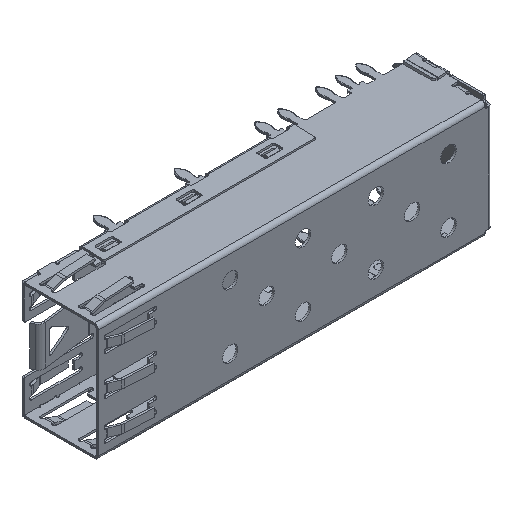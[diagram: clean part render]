
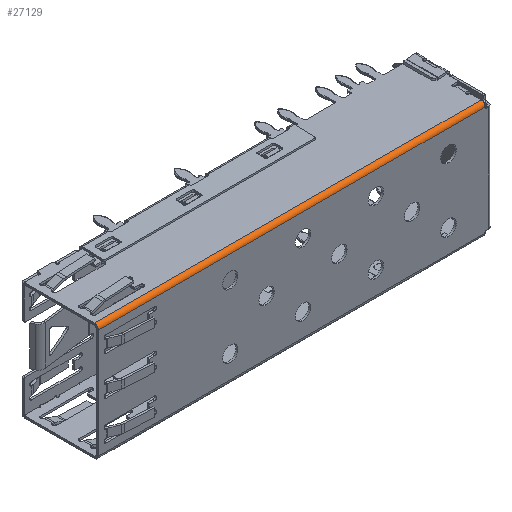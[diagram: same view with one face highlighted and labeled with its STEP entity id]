
A CAD part, isometric view. The second image highlights one B-rep face of the part: STEP entity #27129.
In plain terms, the highlighted cylindrical face has radius 0.5 mm (diameter 1 mm), a partial arc.
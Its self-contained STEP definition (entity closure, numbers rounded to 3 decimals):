
#5833 = LINE ( 'NONE', #8128, #5842 ) ;
#5842 = VECTOR ( 'NONE', #8131, 1000. ) ;
#8128 = CARTESIAN_POINT ( 'NONE',  ( -38.981, -4.934, 7.75 ) ) ;
#8131 = DIRECTION ( 'NONE',  ( -1., 0., 0. ) ) ;
#8472 = CIRCLE ( 'NONE', #53793, 0.5 ) ;
#8480 = CIRCLE ( 'NONE', #53795, 0.5 ) ;
#10544 = CARTESIAN_POINT ( 'NONE',  ( -39.131, -4.434, 7.75 ) ) ;
#10546 = DIRECTION ( 'NONE',  ( 1., 0., 0. ) ) ;
#10547 = DIRECTION ( 'NONE',  ( 0., 0., 1. ) ) ;
#10560 = CARTESIAN_POINT ( 'NONE',  ( 8.689, -4.434, 7.75 ) ) ;
#10561 = DIRECTION ( 'NONE',  ( -1., 0., 0. ) ) ;
#10563 = DIRECTION ( 'NONE',  ( 0., 0., 1. ) ) ;
#13764 = AXIS2_PLACEMENT_3D ( 'NONE', #30842, #30830, #30850 ) ;
#14603 = VERTEX_POINT ( 'NONE', #16296 ) ;
#14604 = VERTEX_POINT ( 'NONE', #16298 ) ;
#15592 = EDGE_LOOP ( 'NONE', ( #20827, #20825, #20852, #20833 ) ) ;
#16296 = CARTESIAN_POINT ( 'NONE',  ( 8.689, -4.434, 8.25 ) ) ;
#16298 = CARTESIAN_POINT ( 'NONE',  ( -39.131, -4.434, 8.25 ) ) ;
#20825 = ORIENTED_EDGE ( 'NONE', *, *, #40859, .F. ) ;
#20827 = ORIENTED_EDGE ( 'NONE', *, *, #48760, .T. ) ;
#20833 = ORIENTED_EDGE ( 'NONE', *, *, #40188, .T. ) ;
#20852 = ORIENTED_EDGE ( 'NONE', *, *, #48762, .T. ) ;
#27129 = ADVANCED_FACE ( 'NONE', ( #52182 ), #52190, .T. ) ;
#30830 = DIRECTION ( 'NONE',  ( -1., 0., 0. ) ) ;
#30842 = CARTESIAN_POINT ( 'NONE',  ( 32.602, -4.434, 7.75 ) ) ;
#30850 = DIRECTION ( 'NONE',  ( 0., 0., 1. ) ) ;
#35298 = CARTESIAN_POINT ( 'NONE',  ( 8.689, -4.934, 7.75 ) ) ;
#35300 = CARTESIAN_POINT ( 'NONE',  ( -39.131, -4.934, 7.75 ) ) ;
#40188 = EDGE_CURVE ( 'NONE', #14603, #14604, #65345, .T. ) ;
#40859 = EDGE_CURVE ( 'NONE', #59470, #59472, #5833, .T. ) ;
#48760 = EDGE_CURVE ( 'NONE', #14604, #59472, #8472, .T. ) ;
#48762 = EDGE_CURVE ( 'NONE', #59470, #14603, #8480, .T. ) ;
#52182 = FACE_OUTER_BOUND ( 'NONE', #15592, .T. ) ;
#52190 = CYLINDRICAL_SURFACE ( 'NONE', #13764, 0.5 ) ;
#53793 = AXIS2_PLACEMENT_3D ( 'NONE', #10544, #10546, #10547 ) ;
#53795 = AXIS2_PLACEMENT_3D ( 'NONE', #10560, #10561, #10563 ) ;
#54071 = CARTESIAN_POINT ( 'NONE',  ( -38.981, -4.434, 8.25 ) ) ;
#54073 = DIRECTION ( 'NONE',  ( -1., 0., 0. ) ) ;
#59470 = VERTEX_POINT ( 'NONE', #35298 ) ;
#59472 = VERTEX_POINT ( 'NONE', #35300 ) ;
#65345 = LINE ( 'NONE', #54071, #65348 ) ;
#65348 = VECTOR ( 'NONE', #54073, 1000. ) ;
